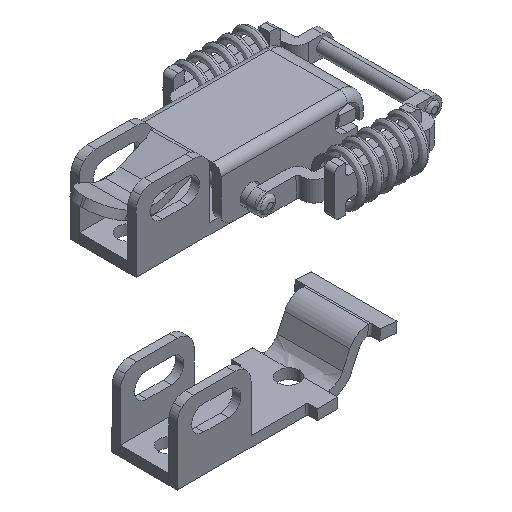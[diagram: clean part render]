
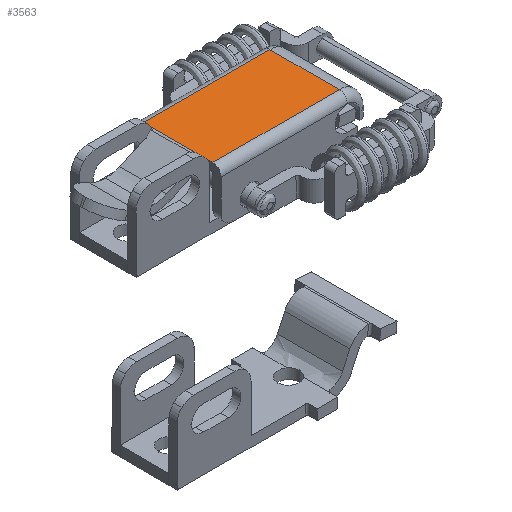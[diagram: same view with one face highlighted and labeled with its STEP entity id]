
A CAD part, isometric view. The second image highlights one B-rep face of the part: STEP entity #3563.
In plain terms, the highlighted planar face has unit normal (0, 0, 1) as drawn and (-0.049, 0, 0.999) by its records, which use the part's own axes.
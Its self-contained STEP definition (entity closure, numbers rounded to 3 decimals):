
#3247=CARTESIAN_POINT('',(-6.269,-8.452,5.605));
#3248=VERTEX_POINT('',#3247);
#3258=CARTESIAN_POINT('',(-6.269,-7.752,5.605));
#3259=VERTEX_POINT('',#3258);
#3260=CARTESIAN_POINT('',(-6.269,-8.452,5.605));
#3261=DIRECTION('',(0.,1.,0.));
#3262=VECTOR('',#3261,0.7);
#3263=LINE('',#3260,#3262);
#3264=EDGE_CURVE('',#3248,#3259,#3263,.T.);
#3517=CARTESIAN_POINT('',(-6.269,-8.452,5.605));
#3518=DIRECTION('',(0.049,0.,-0.999));
#3519=DIRECTION('',(0.,1.,0.));
#3520=AXIS2_PLACEMENT_3D('',#3517,#3518,#3519);
#3521=PLANE('',#3520);
#3522=CARTESIAN_POINT('',(24.493,-8.448,7.128));
#3523=VERTEX_POINT('',#3522);
#3524=CARTESIAN_POINT('',(-6.269,-8.452,5.605));
#3525=DIRECTION('',(0.999,0.,0.049));
#3526=VECTOR('',#3525,30.8);
#3527=LINE('',#3524,#3526);
#3528=EDGE_CURVE('',#3248,#3523,#3527,.T.);
#3529=ORIENTED_EDGE('',*,*,#3528,.T.);
#3530=CARTESIAN_POINT('',(24.491,8.452,7.128));
#3531=VERTEX_POINT('',#3530);
#3532=CARTESIAN_POINT('',(24.491,8.452,7.128));
#3533=DIRECTION('',(0.,-1.,0.));
#3534=VECTOR('',#3533,16.9);
#3535=LINE('',#3532,#3534);
#3536=EDGE_CURVE('',#3531,#3523,#3535,.T.);
#3537=ORIENTED_EDGE('',*,*,#3536,.F.);
#3538=CARTESIAN_POINT('',(-6.272,8.448,5.605));
#3539=VERTEX_POINT('',#3538);
#3540=CARTESIAN_POINT('',(-6.272,8.448,5.605));
#3541=DIRECTION('',(0.999,0.,0.049));
#3542=VECTOR('',#3541,30.8);
#3543=LINE('',#3540,#3542);
#3544=EDGE_CURVE('',#3539,#3531,#3543,.T.);
#3545=ORIENTED_EDGE('',*,*,#3544,.F.);
#3546=CARTESIAN_POINT('',(-6.271,7.748,5.605));
#3547=VERTEX_POINT('',#3546);
#3548=CARTESIAN_POINT('',(-6.271,7.748,5.605));
#3549=DIRECTION('',(0.,1.,0.));
#3550=VECTOR('',#3549,0.7);
#3551=LINE('',#3548,#3550);
#3552=EDGE_CURVE('',#3547,#3539,#3551,.T.);
#3553=ORIENTED_EDGE('',*,*,#3552,.F.);
#3554=CARTESIAN_POINT('',(-6.269,-7.752,5.605));
#3555=DIRECTION('',(0.,1.,0.));
#3556=VECTOR('',#3555,15.5);
#3557=LINE('',#3554,#3556);
#3558=EDGE_CURVE('',#3259,#3547,#3557,.T.);
#3559=ORIENTED_EDGE('',*,*,#3558,.F.);
#3560=ORIENTED_EDGE('',*,*,#3264,.F.);
#3561=EDGE_LOOP('',(#3529,#3537,#3545,#3553,#3559,#3560));
#3562=FACE_OUTER_BOUND('',#3561,.T.);
#3563=ADVANCED_FACE('',(#3562),#3521,.F.);
